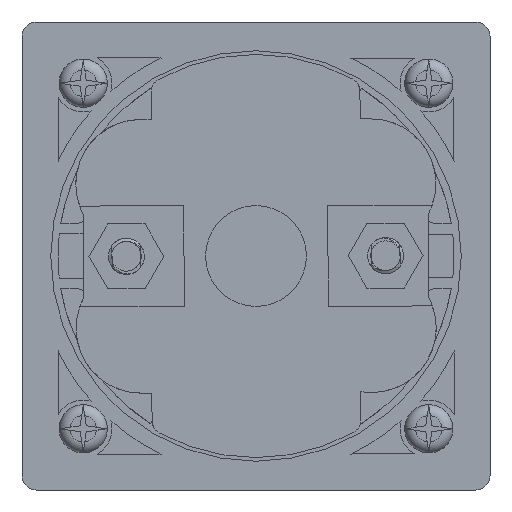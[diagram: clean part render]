
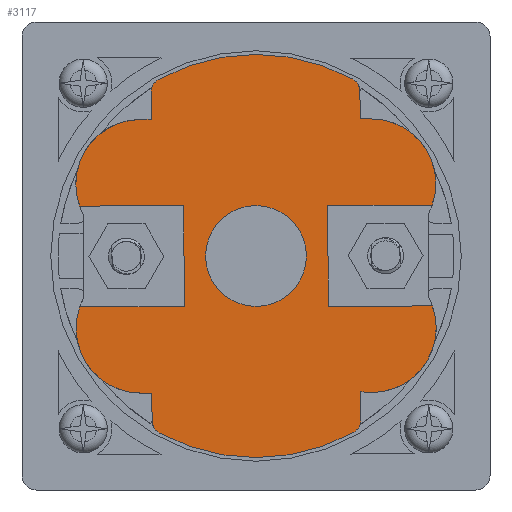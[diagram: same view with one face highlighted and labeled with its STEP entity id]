
A CAD part, front view. The second image highlights one B-rep face of the part: STEP entity #3117.
In plain terms, the highlighted planar face has unit normal (0, -1, 0).
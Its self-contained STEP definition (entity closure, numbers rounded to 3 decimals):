
#1137=FACE_BOUND('',#6628,.T.);
#1138=FACE_BOUND('',#6629,.T.);
#3117=ADVANCED_FACE('',(#1137,#1138),#4129,.F.);
#4129=PLANE('',#27047);
#6628=EDGE_LOOP('',(#13089,#13090,#13091,#13092,#13093,#13094,#13095,#13096,
#13097,#13098,#13099,#13100,#13101,#13102,#13103,#13104,#13105,#13106,#13107,
#13108,#13109,#13110,#13111,#13112,#13113));
#6629=EDGE_LOOP('',(#13114));
#7916=CIRCLE('',#27035,9.);
#7917=CIRCLE('',#27036,2.);
#7918=CIRCLE('',#27037,28.);
#7919=CIRCLE('',#27038,2.);
#7920=CIRCLE('',#27039,8.96);
#7921=CIRCLE('',#27040,9.);
#7922=CIRCLE('',#27041,9.);
#7923=CIRCLE('',#27042,2.);
#7924=CIRCLE('',#27043,28.);
#7925=CIRCLE('',#27044,2.);
#7926=CIRCLE('',#27045,9.);
#7927=CIRCLE('',#27046,7.);
#13089=ORIENTED_EDGE('',*,*,#20684,.F.);
#13090=ORIENTED_EDGE('',*,*,#20685,.T.);
#13091=ORIENTED_EDGE('',*,*,#20686,.T.);
#13092=ORIENTED_EDGE('',*,*,#20687,.T.);
#13093=ORIENTED_EDGE('',*,*,#20688,.T.);
#13094=ORIENTED_EDGE('',*,*,#20689,.T.);
#13095=ORIENTED_EDGE('',*,*,#20690,.T.);
#13096=ORIENTED_EDGE('',*,*,#20691,.T.);
#13097=ORIENTED_EDGE('',*,*,#20692,.T.);
#13098=ORIENTED_EDGE('',*,*,#20693,.T.);
#13099=ORIENTED_EDGE('',*,*,#20694,.T.);
#13100=ORIENTED_EDGE('',*,*,#20695,.F.);
#13101=ORIENTED_EDGE('',*,*,#20696,.F.);
#13102=ORIENTED_EDGE('',*,*,#20697,.F.);
#13103=ORIENTED_EDGE('',*,*,#20698,.T.);
#13104=ORIENTED_EDGE('',*,*,#20699,.T.);
#13105=ORIENTED_EDGE('',*,*,#20700,.T.);
#13106=ORIENTED_EDGE('',*,*,#20701,.T.);
#13107=ORIENTED_EDGE('',*,*,#20702,.T.);
#13108=ORIENTED_EDGE('',*,*,#20703,.T.);
#13109=ORIENTED_EDGE('',*,*,#20704,.T.);
#13110=ORIENTED_EDGE('',*,*,#20705,.T.);
#13111=ORIENTED_EDGE('',*,*,#20706,.T.);
#13112=ORIENTED_EDGE('',*,*,#20707,.F.);
#13113=ORIENTED_EDGE('',*,*,#20708,.F.);
#13114=ORIENTED_EDGE('',*,*,#20709,.F.);
#17373=VERTEX_POINT('',#81777);
#17374=VERTEX_POINT('',#81778);
#17375=VERTEX_POINT('',#81780);
#17376=VERTEX_POINT('',#81782);
#17377=VERTEX_POINT('',#81784);
#17378=VERTEX_POINT('',#81786);
#17379=VERTEX_POINT('',#81788);
#17380=VERTEX_POINT('',#81790);
#17381=VERTEX_POINT('',#81792);
#17382=VERTEX_POINT('',#81794);
#17383=VERTEX_POINT('',#81796);
#17384=VERTEX_POINT('',#81798);
#17385=VERTEX_POINT('',#81800);
#17386=VERTEX_POINT('',#81802);
#17387=VERTEX_POINT('',#81804);
#17388=VERTEX_POINT('',#81806);
#17389=VERTEX_POINT('',#81808);
#17390=VERTEX_POINT('',#81810);
#17391=VERTEX_POINT('',#81812);
#17392=VERTEX_POINT('',#81814);
#17393=VERTEX_POINT('',#81816);
#17394=VERTEX_POINT('',#81818);
#17395=VERTEX_POINT('',#81820);
#17396=VERTEX_POINT('',#81822);
#17397=VERTEX_POINT('',#81824);
#17398=VERTEX_POINT('',#81827);
#20684=EDGE_CURVE('',#17373,#17374,#23073,.T.);
#20685=EDGE_CURVE('',#17373,#17375,#7916,.T.);
#20686=EDGE_CURVE('',#17375,#17376,#23074,.T.);
#20687=EDGE_CURVE('',#17376,#17377,#23075,.T.);
#20688=EDGE_CURVE('',#17377,#17378,#7917,.T.);
#20689=EDGE_CURVE('',#17378,#17379,#7918,.T.);
#20690=EDGE_CURVE('',#17379,#17380,#7919,.T.);
#20691=EDGE_CURVE('',#17380,#17381,#23076,.T.);
#20692=EDGE_CURVE('',#17381,#17382,#7920,.T.);
#20693=EDGE_CURVE('',#17382,#17383,#23077,.T.);
#20694=EDGE_CURVE('',#17383,#17384,#7921,.T.);
#20695=EDGE_CURVE('',#17385,#17384,#23078,.T.);
#20696=EDGE_CURVE('',#17386,#17385,#23079,.T.);
#20697=EDGE_CURVE('',#17387,#17386,#23080,.T.);
#20698=EDGE_CURVE('',#17387,#17388,#7922,.T.);
#20699=EDGE_CURVE('',#17388,#17389,#23081,.T.);
#20700=EDGE_CURVE('',#17389,#17390,#23082,.T.);
#20701=EDGE_CURVE('',#17390,#17391,#7923,.T.);
#20702=EDGE_CURVE('',#17391,#17392,#7924,.T.);
#20703=EDGE_CURVE('',#17392,#17393,#7925,.T.);
#20704=EDGE_CURVE('',#17393,#17394,#23083,.T.);
#20705=EDGE_CURVE('',#17394,#17395,#23084,.T.);
#20706=EDGE_CURVE('',#17395,#17396,#7926,.T.);
#20707=EDGE_CURVE('',#17397,#17396,#23085,.T.);
#20708=EDGE_CURVE('',#17374,#17397,#23086,.T.);
#20709=EDGE_CURVE('',#17398,#17398,#7927,.T.);
#23073=LINE('',#81776,#24884);
#23074=LINE('',#81781,#24885);
#23075=LINE('',#81783,#24886);
#23076=LINE('',#81791,#24887);
#23077=LINE('',#81795,#24888);
#23078=LINE('',#81799,#24889);
#23079=LINE('',#81801,#24890);
#23080=LINE('',#81803,#24891);
#23081=LINE('',#81807,#24892);
#23082=LINE('',#81809,#24893);
#23083=LINE('',#81817,#24894);
#23084=LINE('',#81819,#24895);
#23085=LINE('',#81823,#24896);
#23086=LINE('',#81825,#24897);
#24884=VECTOR('',#32239,1.);
#24885=VECTOR('',#32242,1.);
#24886=VECTOR('',#32243,1.);
#24887=VECTOR('',#32250,1.);
#24888=VECTOR('',#32253,1.);
#24889=VECTOR('',#32256,1.);
#24890=VECTOR('',#32257,1.);
#24891=VECTOR('',#32258,1.);
#24892=VECTOR('',#32261,1.);
#24893=VECTOR('',#32262,1.);
#24894=VECTOR('',#32269,1.);
#24895=VECTOR('',#32270,1.);
#24896=VECTOR('',#32273,1.);
#24897=VECTOR('',#32274,1.);
#27035=AXIS2_PLACEMENT_3D('',#81779,#32240,#32241);
#27036=AXIS2_PLACEMENT_3D('',#81785,#32244,#32245);
#27037=AXIS2_PLACEMENT_3D('',#81787,#32246,#32247);
#27038=AXIS2_PLACEMENT_3D('',#81789,#32248,#32249);
#27039=AXIS2_PLACEMENT_3D('',#81793,#32251,#32252);
#27040=AXIS2_PLACEMENT_3D('',#81797,#32254,#32255);
#27041=AXIS2_PLACEMENT_3D('',#81805,#32259,#32260);
#27042=AXIS2_PLACEMENT_3D('',#81811,#32263,#32264);
#27043=AXIS2_PLACEMENT_3D('',#81813,#32265,#32266);
#27044=AXIS2_PLACEMENT_3D('',#81815,#32267,#32268);
#27045=AXIS2_PLACEMENT_3D('',#81821,#32271,#32272);
#27046=AXIS2_PLACEMENT_3D('',#81826,#32275,#32276);
#27047=AXIS2_PLACEMENT_3D('',#81828,#32277,#32278);
#32239=DIRECTION('',(1.,0.,0.003));
#32240=DIRECTION('',(0.,-1.,0.));
#32241=DIRECTION('',(-0.89,0.,0.456));
#32242=DIRECTION('',(1.,0.,0.003));
#32243=DIRECTION('',(0.003,0.,-1.));
#32244=DIRECTION('',(0.,-1.,0.));
#32245=DIRECTION('',(1.,0.,0.003));
#32246=DIRECTION('',(0.,-1.,0.));
#32247=DIRECTION('',(1.,0.,0.003));
#32248=DIRECTION('',(0.,-1.,0.));
#32249=DIRECTION('',(1.,0.,0.003));
#32250=DIRECTION('',(-0.003,0.,1.));
#32251=DIRECTION('',(0.,-1.,0.));
#32252=DIRECTION('',(0.,0.,-1.));
#32253=DIRECTION('',(1.,0.,0.003));
#32254=DIRECTION('',(0.,-1.,0.));
#32255=DIRECTION('',(0.,0.,-1.));
#32256=DIRECTION('',(1.,0.,0.003));
#32257=DIRECTION('',(0.003,0.,-1.));
#32258=DIRECTION('',(-1.,0.,-0.003));
#32259=DIRECTION('',(0.,-1.,0.));
#32260=DIRECTION('',(1.,0.,0.003));
#32261=DIRECTION('',(-1.,0.,-0.003));
#32262=DIRECTION('',(-0.003,0.,1.));
#32263=DIRECTION('',(0.,-1.,0.));
#32264=DIRECTION('',(1.,0.,0.003));
#32265=DIRECTION('',(0.,-1.,0.));
#32266=DIRECTION('',(1.,0.,0.003));
#32267=DIRECTION('',(0.,-1.,0.));
#32268=DIRECTION('',(1.,0.,0.003));
#32269=DIRECTION('',(0.003,0.,-1.));
#32270=DIRECTION('',(-1.,0.,-0.003));
#32271=DIRECTION('',(0.,-1.,0.));
#32272=DIRECTION('',(-1.,0.,-0.003));
#32273=DIRECTION('',(-1.,0.,-0.003));
#32274=DIRECTION('',(-0.003,0.,1.));
#32275=DIRECTION('',(0.,-1.,0.));
#32276=DIRECTION('',(-1.,0.,-0.003));
#32277=DIRECTION('',(0.,1.,0.));
#32278=DIRECTION('',(0.,0.,1.));
#81776=CARTESIAN_POINT('',(-34.164,-94.6,-7.088));
#81777=CARTESIAN_POINT('',(-24.468,-94.6,-7.063));
#81778=CARTESIAN_POINT('',(-9.982,-94.6,-7.026));
#81779=CARTESIAN_POINT('',(-15.974,-94.6,-10.041));
#81780=CARTESIAN_POINT('',(-15.951,-94.6,-19.041));
#81781=CARTESIAN_POINT('',(23.753,-94.6,-18.934));
#81782=CARTESIAN_POINT('',(-14.451,-94.6,-19.037));
#81783=CARTESIAN_POINT('',(-14.451,-94.6,-19.037));
#81784=CARTESIAN_POINT('',(-14.441,-94.6,-22.835));
#81785=CARTESIAN_POINT('',(-12.441,-94.6,-22.83));
#81786=CARTESIAN_POINT('',(-13.398,-94.6,-24.586));
#81787=CARTESIAN_POINT('',(0.,-94.6,0.));
#81788=CARTESIAN_POINT('',(13.525,-94.6,-24.517));
#81789=CARTESIAN_POINT('',(12.558,-94.6,-22.766));
#81790=CARTESIAN_POINT('',(14.558,-94.6,-22.761));
#81791=CARTESIAN_POINT('',(14.558,-94.6,-22.761));
#81792=CARTESIAN_POINT('',(14.548,-94.6,-18.837));
#81793=CARTESIAN_POINT('',(16.02,-94.6,-9.999));
#81794=CARTESIAN_POINT('',(15.978,-94.6,-18.959));
#81795=CARTESIAN_POINT('',(23.752,-94.6,-18.938));
#81796=CARTESIAN_POINT('',(16.119,-94.6,-18.958));
#81797=CARTESIAN_POINT('',(16.026,-94.6,-9.959));
#81798=CARTESIAN_POINT('',(24.503,-94.6,-6.937));
#81799=CARTESIAN_POINT('',(10.018,-94.6,-6.974));
#81800=CARTESIAN_POINT('',(10.018,-94.6,-6.974));
#81801=CARTESIAN_POINT('',(9.982,-94.6,7.026));
#81802=CARTESIAN_POINT('',(9.982,-94.6,7.026));
#81803=CARTESIAN_POINT('',(34.164,-94.6,7.088));
#81804=CARTESIAN_POINT('',(24.467,-94.6,7.063));
#81805=CARTESIAN_POINT('',(15.974,-94.6,10.041));
#81806=CARTESIAN_POINT('',(15.951,-94.6,19.041));
#81807=CARTESIAN_POINT('',(15.951,-94.6,19.041));
#81808=CARTESIAN_POINT('',(14.451,-94.6,19.037));
#81809=CARTESIAN_POINT('',(14.451,-94.6,19.037));
#81810=CARTESIAN_POINT('',(14.441,-94.6,22.835));
#81811=CARTESIAN_POINT('',(12.441,-94.6,22.83));
#81812=CARTESIAN_POINT('',(13.398,-94.6,24.586));
#81813=CARTESIAN_POINT('',(0.,-94.6,0.));
#81814=CARTESIAN_POINT('',(-13.525,-94.6,24.517));
#81815=CARTESIAN_POINT('',(-12.558,-94.6,22.766));
#81816=CARTESIAN_POINT('',(-14.558,-94.6,22.761));
#81817=CARTESIAN_POINT('',(-14.558,-94.6,22.761));
#81818=CARTESIAN_POINT('',(-14.549,-94.6,18.963));
#81819=CARTESIAN_POINT('',(-14.549,-94.6,18.963));
#81820=CARTESIAN_POINT('',(-16.049,-94.6,18.959));
#81821=CARTESIAN_POINT('',(-16.026,-94.6,9.959));
#81822=CARTESIAN_POINT('',(-24.503,-94.6,6.937));
#81823=CARTESIAN_POINT('',(-10.018,-94.6,6.974));
#81824=CARTESIAN_POINT('',(-10.018,-94.6,6.974));
#81825=CARTESIAN_POINT('',(-9.982,-94.6,-7.026));
#81826=CARTESIAN_POINT('',(0.,-94.6,0.));
#81827=CARTESIAN_POINT('',(-7.,-94.6,-0.018));
#81828=CARTESIAN_POINT('',(23.741,-94.6,-14.593));
